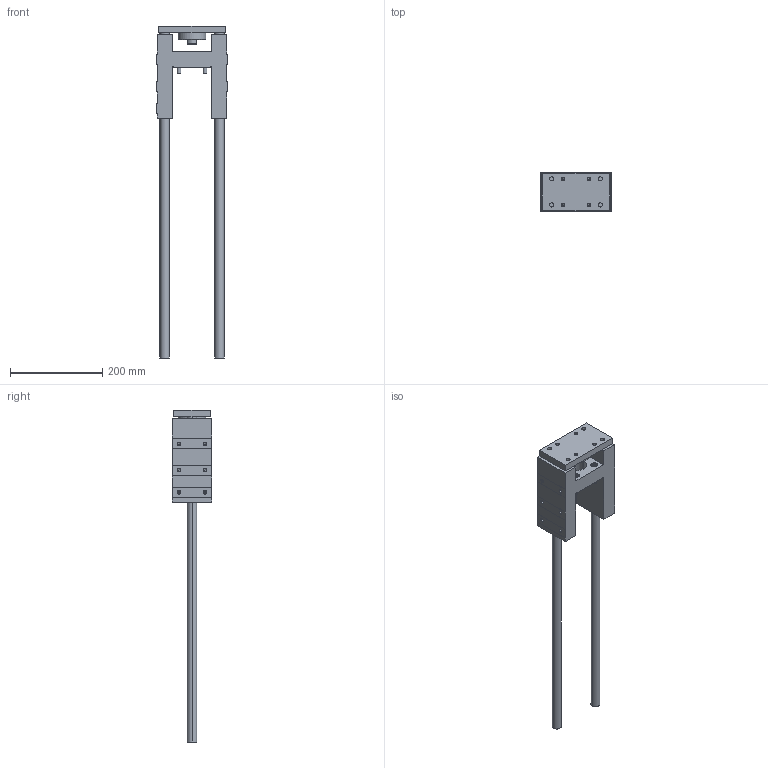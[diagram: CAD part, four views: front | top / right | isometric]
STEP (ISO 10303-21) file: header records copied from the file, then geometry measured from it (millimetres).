
FILE_DESCRIPTION (( 'STEP AP203' ), '1' );
FILE_NAME ('GB63-500.STEP', '2020-04-24T13:24:55', ( '' ), ( '' ), 'SwSTEP 2.0', 'SolidWorks 2019', '' );
FILE_SCHEMA (( 'CONFIG_CONTROL_DESIGN' ));
Length unit declared in the file: millimetre
Products named in the file (1): GB63-500
Bounding box: 152 x 85 x 720 mm (x, y, z)
Volume: 1739037.4 mm3; surface area: 277037.2 mm2
Topology: 6 solids, 6 shells, 363 faces, 814 edges, 462 vertices
Faces by surface type: cone 146, plane 115, cylinder 102
Entity records: 10453 total; most frequent: CARTESIAN_POINT 2284, DIRECTION 1812, ORIENTED_EDGE 1556, EDGE_CURVE 778, AXIS2_PLACEMENT_3D 702, VERTEX_POINT 462, EDGE_LOOP 428, VECTOR 408
